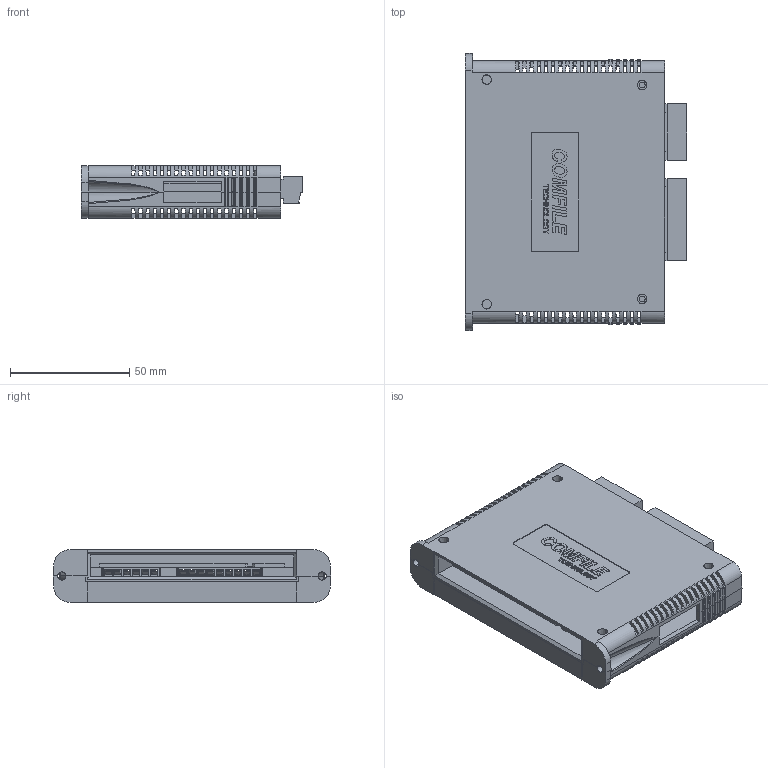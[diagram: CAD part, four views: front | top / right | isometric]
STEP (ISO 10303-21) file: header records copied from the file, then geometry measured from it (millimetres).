
FILE_DESCRIPTION (( 'STEP AP214' ), '1' );
FILE_NAME ('DP-HCNT_ASM.STEP', '2016-05-31T01:37:20', ( 'Registered User' ), ( 'Microsoft Corporation' ), 'SwSTEP 2.0', 'SolidWorks 2014', '' );
FILE_SCHEMA (( 'AUTOMOTIVE_DESIGN' ));
Length unit declared in the file: millimetre
Products named in the file (1): DP-HCNT_ASM
Bounding box: 92.6 x 116 x 22 mm (x, y, z)
Surface area: 47895.7 mm2 (no closed solid volume)
Topology: 0 solids, 10 shells, 1049 faces, 3993 edges, 2794 vertices
Faces by surface type: plane 862, cylinder 175, cone 8, bspline 4
Entity records: 52409 total; most frequent: CARTESIAN_POINT 9401, ORIENTED_EDGE 6246, DIRECTION 5902, EDGE_CURVE 3993, LINE 3216, VECTOR 3216, VERTEX_POINT 2794, AXIS2_PLACEMENT_3D 1343
